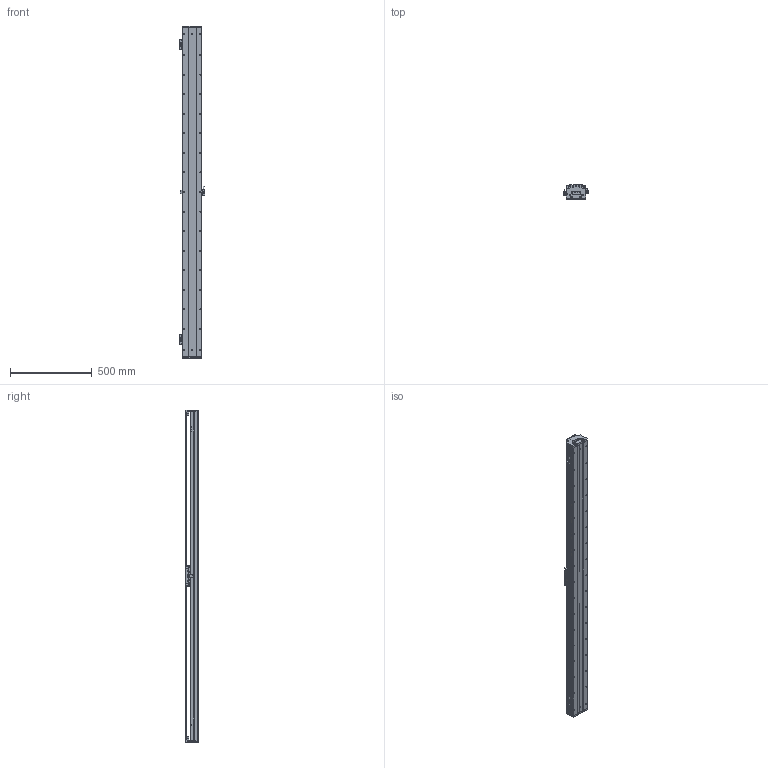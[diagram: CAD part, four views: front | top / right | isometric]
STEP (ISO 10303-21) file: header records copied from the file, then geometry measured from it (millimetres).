
FILE_DESCRIPTION (( 'STEP AP203' ), '1' );
FILE_NAME ('DKW120-B15-W060（T1800-L005-0.2）.STEP', '2021-09-07T06:10:09', ( '微软用户' ), ( '微软中国' ), 'SwSTEP 2.0', 'SolidWorks 2018', '' );
FILE_SCHEMA (( 'CONFIG_CONTROL_DESIGN' ));
Length unit declared in the file: millimetre
Products named in the file (24): DKW119-HT-C15-00 賑怢啣; DKW119-RU-DTJ-00 RU2黍杅芛盓殤; 砎蝶猾沭; MSB15TS2FC+U92.7-16.35_16.35N_(0_45.85_0_01G-M4); 10980-0001-003-00 嫖萇羲壽嘐隅釱; 12160-0000-003-00 DKW120詩湍嶺輸; BKM015-W060-C1-TP-3; EE_SX674A; 12160-0000-004-00  DKW120詩湍揤輸; B15-W060; DKW120-B15-W060（T1800-L005-0.2）; DKW120 单轴模组-拉钢带组件; MSB15-DG-U; BKMA01-W060-TRL280; 06652-0001-001-00 DKW120傷啣; DKW120-B15-T300-DZ-00 菁釱; RUS嫖掑喜; 06652-0001-004-00 DKW120嶺輸菜輸; DKW-SG-GYP-H-00 嫖萇覜茼え; Ru2; DKW-HXJ-JY-00 遣喳砎蝶; DKW-HYB-JY-A-00 賑輸揤啣A; RUS嫖掑郪璃; 10940-0001-004-00 120詩湍裔啣
Assembly tree (41 placements, depth 3):
  DKW120-B15-W060（T1800-L005-0.2）
    DKW120-B15-T300-DZ-00 菁釱
    B15-W060
      DKW-SG-GYP-H-00 嫖萇覜茼え
      DKW-HYB-JY-A-00 賑輸揤啣A  x2
      DKW119-HT-C15-00 賑怢啣
      MSB15TS2FC+U92.7-16.35_16.35N_(0_45.85_0_01G-M4)  x4
      BKM015-W060-C1-TP-3
    MSB15-DG-U  x2
    DKW120 单轴模组-拉钢带组件
      06652-0001-001-00 DKW120傷啣  x2
      06652-0001-004-00 DKW120嶺輸菜輸  x4
      DKW-HXJ-JY-00 遣喳砎蝶  x4
      10940-0001-004-00 120詩湍裔啣
      砎蝶猾沭  x2
      12160-0000-003-00 DKW120詩湍嶺輸  x2
      12160-0000-004-00  DKW120詩湍揤輸  x2
    BKMA01-W060-TRL280
    RUS嫖掑郪璃
      RUS嫖掑喜
      Ru2
    DKW119-RU-DTJ-00 RU2黍杅芛盓殤
    10980-0001-003-00 嫖萇羲壽嘐隅釱  x2
    EE_SX674A  x3
Bounding box: 154.11 x 84 x 2036 mm (x, y, z)
Volume: 6844550.3 mm3; surface area: 2756851.6 mm2
Topology: 49 solids, 98 shells, 4532 faces, 12465 edges, 8041 vertices
Faces by surface type: plane 2475, cylinder 1424, cone 366, bspline 267
Entity records: 127706 total; most frequent: CARTESIAN_POINT 45907, ORIENTED_EDGE 16935, DIRECTION 15537, EDGE_CURVE 8508, VERTEX_POINT 5588, AXIS2_PLACEMENT_3D 5203, VECTOR 5131, LINE 5131
